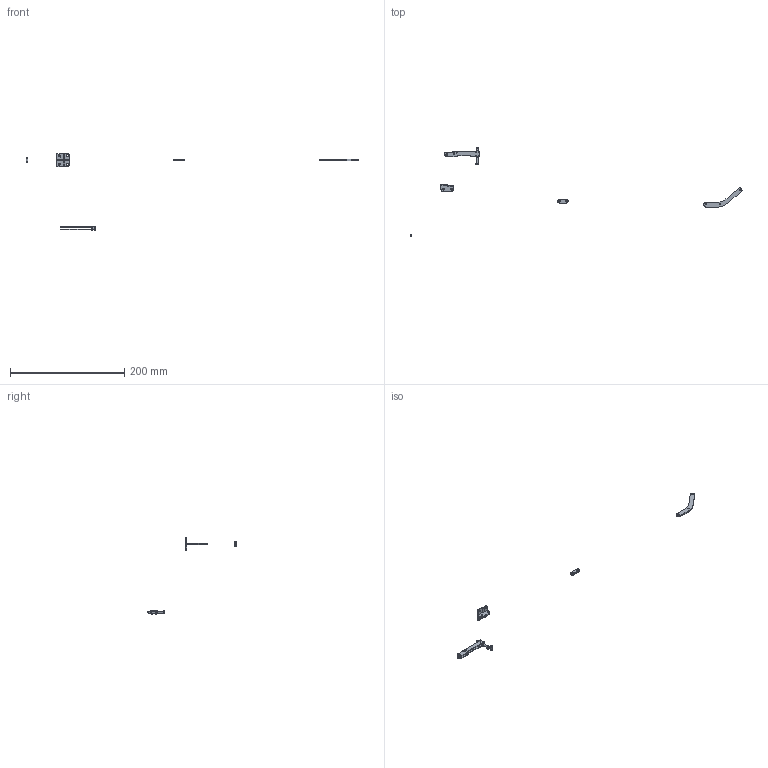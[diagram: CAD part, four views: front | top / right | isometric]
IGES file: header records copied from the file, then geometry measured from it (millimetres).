
Global section: file name: J-400; native system: Autodesk RealDWG; preprocessor: Autodesk Translation Framework DWG producer (atf_dwg_producer); organization: unknown; date: 20150909.133816; units: centimetre
Bounding box: 580.27 x 154.36 x 134.46 mm (x, y, z)
Volume: 5060.6 mm3; surface area: 8900.2 mm2
Topology: 19 solids, 19 shells, 241 faces, 595 edges, 395 vertices
Faces by surface type: bspline 241
